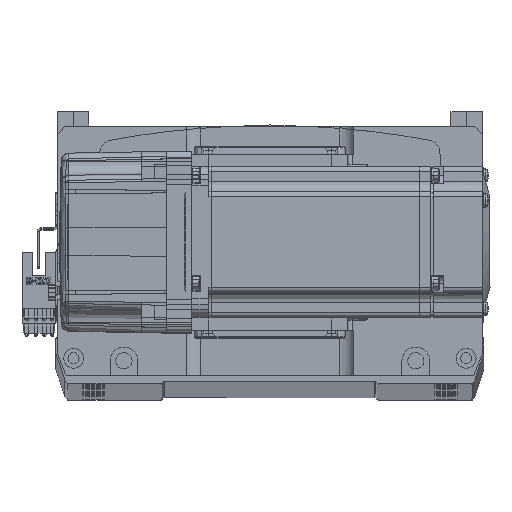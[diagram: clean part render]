
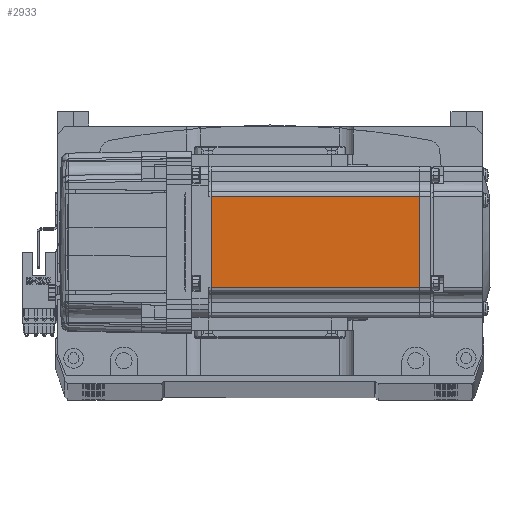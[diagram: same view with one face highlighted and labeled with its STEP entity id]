
A CAD part, top view. The second image highlights one B-rep face of the part: STEP entity #2933.
In plain terms, the highlighted planar face has unit normal (0, 0, 1) as drawn and (0, -1, 0) by its records, which use the part's own axes.
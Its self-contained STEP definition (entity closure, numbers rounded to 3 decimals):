
#2573 = EDGE_CURVE ( 'NONE', #60556, #69791, #67359, .T. ) ;
#2933 = ADVANCED_FACE ( 'NONE', ( #39647 ), #37720, .T. ) ;
#3540 = VERTEX_POINT ( 'NONE', #21079 ) ;
#6216 = VECTOR ( 'NONE', #12852, 1000. ) ;
#8270 = CARTESIAN_POINT ( 'NONE',  ( -6.5, -30., -25. ) ) ;
#8544 = ORIENTED_EDGE ( 'NONE', *, *, #53940, .T. ) ;
#9321 = VECTOR ( 'NONE', #48783, 1000. ) ;
#12009 = ORIENTED_EDGE ( 'NONE', *, *, #15539, .T. ) ;
#12852 = DIRECTION ( 'NONE',  ( 0., 0., -1. ) ) ;
#13981 = AXIS2_PLACEMENT_3D ( 'NONE', #8270, #25313, #14027 ) ;
#14027 = DIRECTION ( 'NONE',  ( 0., 0., -1. ) ) ;
#15539 = EDGE_CURVE ( 'NONE', #19919, #3540, #36607, .T. ) ;
#15830 = EDGE_CURVE ( 'NONE', #3540, #60556, #21362, .T. ) ;
#16565 = VECTOR ( 'NONE', #26970, 1000. ) ;
#19919 = VERTEX_POINT ( 'NONE', #47084 ) ;
#21079 = CARTESIAN_POINT ( 'NONE',  ( -90.45, -30., -18. ) ) ;
#21362 = LINE ( 'NONE', #46645, #43690 ) ;
#25313 = DIRECTION ( 'NONE',  ( 0., -1., 0. ) ) ;
#26970 = DIRECTION ( 'NONE',  ( -1., 0., 0. ) ) ;
#29166 = CARTESIAN_POINT ( 'NONE',  ( -7.75, -30., -18. ) ) ;
#36202 = CARTESIAN_POINT ( 'NONE',  ( -7.75, -30., 18. ) ) ;
#36607 = LINE ( 'NONE', #38638, #6216 ) ;
#37720 = PLANE ( 'NONE',  #13981 ) ;
#38638 = CARTESIAN_POINT ( 'NONE',  ( -90.45, -30., -25. ) ) ;
#38847 = LINE ( 'NONE', #72395, #16565 ) ;
#39647 = FACE_OUTER_BOUND ( 'NONE', #52587, .T. ) ;
#40932 = ORIENTED_EDGE ( 'NONE', *, *, #2573, .T. ) ;
#43690 = VECTOR ( 'NONE', #58102, 1000. ) ;
#46645 = CARTESIAN_POINT ( 'NONE',  ( -6.5, -30., -18. ) ) ;
#47084 = CARTESIAN_POINT ( 'NONE',  ( -90.45, -30., 18. ) ) ;
#48783 = DIRECTION ( 'NONE',  ( 0., 0., 1. ) ) ;
#52587 = EDGE_LOOP ( 'NONE', ( #40932, #8544, #12009, #55308 ) ) ;
#53940 = EDGE_CURVE ( 'NONE', #69791, #19919, #38847, .T. ) ;
#55308 = ORIENTED_EDGE ( 'NONE', *, *, #15830, .T. ) ;
#58102 = DIRECTION ( 'NONE',  ( 1., 0., 0. ) ) ;
#59780 = CARTESIAN_POINT ( 'NONE',  ( -7.75, -30., -25. ) ) ;
#60556 = VERTEX_POINT ( 'NONE', #29166 ) ;
#67359 = LINE ( 'NONE', #59780, #9321 ) ;
#69791 = VERTEX_POINT ( 'NONE', #36202 ) ;
#72395 = CARTESIAN_POINT ( 'NONE',  ( -6.5, -30., 18. ) ) ;
